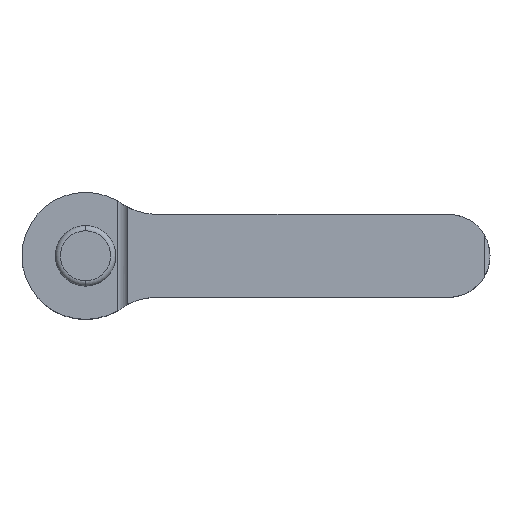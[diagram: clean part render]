
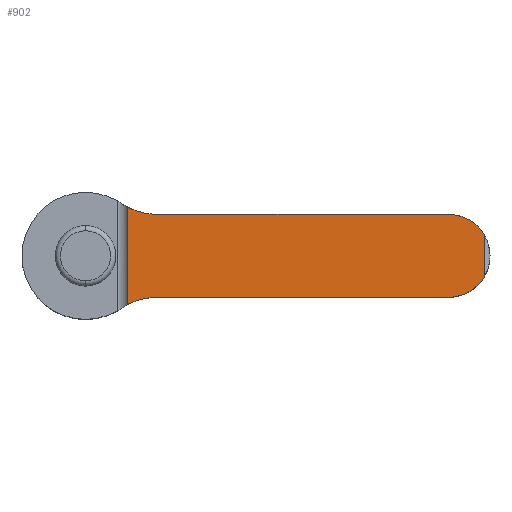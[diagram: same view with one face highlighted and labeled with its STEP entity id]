
A CAD part, top view. The second image highlights one B-rep face of the part: STEP entity #902.
In plain terms, the highlighted planar face has unit normal (0, 0, 1).
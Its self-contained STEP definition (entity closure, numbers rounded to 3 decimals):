
#4 = LINE ( 'NONE', #758, #341 ) ;
#13 = CARTESIAN_POINT ( 'NONE',  ( 0., 0., 42. ) ) ;
#26 = ORIENTED_EDGE ( 'NONE', *, *, #500, .T. ) ;
#30 = VECTOR ( 'NONE', #680, 1000. ) ;
#33 = ORIENTED_EDGE ( 'NONE', *, *, #505, .F. ) ;
#71 = CARTESIAN_POINT ( 'NONE',  ( 13.714, -20., 42. ) ) ;
#73 = CARTESIAN_POINT ( 'NONE',  ( 8.167, -16., 42. ) ) ;
#82 = CARTESIAN_POINT ( 'NONE',  ( 70., 8., 42. ) ) ;
#85 = CIRCLE ( 'NONE', #1144, 12. ) ;
#95 = ORIENTED_EDGE ( 'NONE', *, *, #1032, .F. ) ;
#106 = DIRECTION ( 'NONE',  ( 0., 0., 1. ) ) ;
#109 = EDGE_CURVE ( 'NONE', #666, #139, #1155, .T. ) ;
#117 = ORIENTED_EDGE ( 'NONE', *, *, #1083, .F. ) ;
#124 = EDGE_LOOP ( 'NONE', ( #352, #33, #359, #95, #800, #808, #26, #117 ) ) ;
#127 = EDGE_CURVE ( 'NONE', #135, #722, #201, .T. ) ;
#133 = DIRECTION ( 'NONE',  ( 1., 0., 0. ) ) ;
#135 = VERTEX_POINT ( 'NONE', #174 ) ;
#139 = VERTEX_POINT ( 'NONE', #623 ) ;
#145 = VERTEX_POINT ( 'NONE', #821 ) ;
#158 = CARTESIAN_POINT ( 'NONE',  ( 13.714, 20., 42. ) ) ;
#174 = CARTESIAN_POINT ( 'NONE',  ( 70., -8., 42. ) ) ;
#201 = CIRCLE ( 'NONE', #515, 8. ) ;
#220 = PLANE ( 'NONE',  #791 ) ;
#253 = DIRECTION ( 'NONE',  ( 0., 0., 1. ) ) ;
#276 = LINE ( 'NONE', #559, #869 ) ;
#294 = DIRECTION ( 'NONE',  ( 0., 0., 1. ) ) ;
#341 = VECTOR ( 'NONE', #846, 1000. ) ;
#344 = CARTESIAN_POINT ( 'NONE',  ( 77., -3.873, 42. ) ) ;
#347 = CARTESIAN_POINT ( 'NONE',  ( 70., 0., 42. ) ) ;
#352 = ORIENTED_EDGE ( 'NONE', *, *, #685, .F. ) ;
#359 = ORIENTED_EDGE ( 'NONE', *, *, #109, .F. ) ;
#403 = CARTESIAN_POINT ( 'NONE',  ( 13.714, 8., 42. ) ) ;
#486 = DIRECTION ( 'NONE',  ( 0., -1., 0. ) ) ;
#494 = VECTOR ( 'NONE', #565, 1000. ) ;
#500 = EDGE_CURVE ( 'NONE', #145, #833, #789, .T. ) ;
#505 = EDGE_CURVE ( 'NONE', #139, #904, #632, .T. ) ;
#515 = AXIS2_PLACEMENT_3D ( 'NONE', #347, #827, #1213 ) ;
#529 = CARTESIAN_POINT ( 'NONE',  ( 70., 0., 42. ) ) ;
#532 = VERTEX_POINT ( 'NONE', #403 ) ;
#559 = CARTESIAN_POINT ( 'NONE',  ( 77., -16., 42. ) ) ;
#565 = DIRECTION ( 'NONE',  ( 0., 1., 0. ) ) ;
#592 = CARTESIAN_POINT ( 'NONE',  ( 8.167, 9.359, 42. ) ) ;
#623 = CARTESIAN_POINT ( 'NONE',  ( 8.167, -9.359, 42. ) ) ;
#632 = LINE ( 'NONE', #73, #494 ) ;
#666 = VERTEX_POINT ( 'NONE', #1108 ) ;
#668 = EDGE_CURVE ( 'NONE', #722, #145, #276, .T. ) ;
#680 = DIRECTION ( 'NONE',  ( -1., 0., 0. ) ) ;
#685 = EDGE_CURVE ( 'NONE', #904, #532, #85, .T. ) ;
#722 = VERTEX_POINT ( 'NONE', #344 ) ;
#758 = CARTESIAN_POINT ( 'NONE',  ( 13.714, 8., 42. ) ) ;
#774 = FACE_OUTER_BOUND ( 'NONE', #124, .T. ) ;
#789 = CIRCLE ( 'NONE', #1039, 8. ) ;
#791 = AXIS2_PLACEMENT_3D ( 'NONE', #13, #294, #486 ) ;
#800 = ORIENTED_EDGE ( 'NONE', *, *, #127, .T. ) ;
#808 = ORIENTED_EDGE ( 'NONE', *, *, #668, .T. ) ;
#821 = CARTESIAN_POINT ( 'NONE',  ( 77., 3.873, 42. ) ) ;
#827 = DIRECTION ( 'NONE',  ( 0., 0., 1. ) ) ;
#833 = VERTEX_POINT ( 'NONE', #82 ) ;
#846 = DIRECTION ( 'NONE',  ( 1., 0., 0. ) ) ;
#869 = VECTOR ( 'NONE', #940, 1000. ) ;
#881 = LINE ( 'NONE', #1175, #30 ) ;
#902 = ADVANCED_FACE ( 'NONE', ( #774 ), #220, .T. ) ;
#904 = VERTEX_POINT ( 'NONE', #592 ) ;
#925 = DIRECTION ( 'NONE',  ( 1., 0., 0. ) ) ;
#940 = DIRECTION ( 'NONE',  ( 0., 1., 0. ) ) ;
#1032 = EDGE_CURVE ( 'NONE', #135, #666, #881, .T. ) ;
#1039 = AXIS2_PLACEMENT_3D ( 'NONE', #529, #1200, #1112 ) ;
#1055 = AXIS2_PLACEMENT_3D ( 'NONE', #71, #253, #925 ) ;
#1083 = EDGE_CURVE ( 'NONE', #532, #833, #4, .T. ) ;
#1108 = CARTESIAN_POINT ( 'NONE',  ( 13.714, -8., 42. ) ) ;
#1112 = DIRECTION ( 'NONE',  ( 0., -1., 0. ) ) ;
#1144 = AXIS2_PLACEMENT_3D ( 'NONE', #158, #106, #133 ) ;
#1155 = CIRCLE ( 'NONE', #1055, 12. ) ;
#1175 = CARTESIAN_POINT ( 'NONE',  ( 70., -8., 42. ) ) ;
#1200 = DIRECTION ( 'NONE',  ( 0., 0., 1. ) ) ;
#1213 = DIRECTION ( 'NONE',  ( 0., -1., 0. ) ) ;
